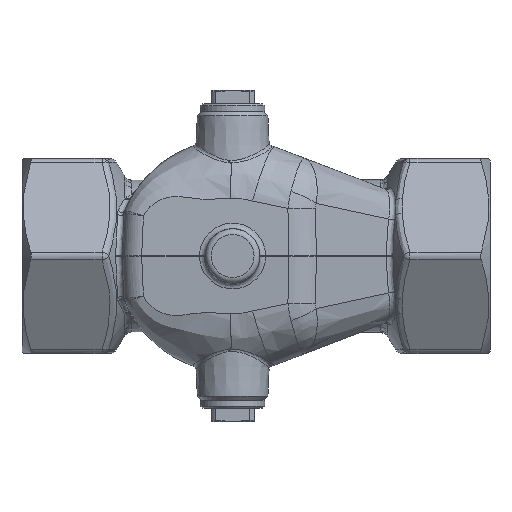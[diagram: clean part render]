
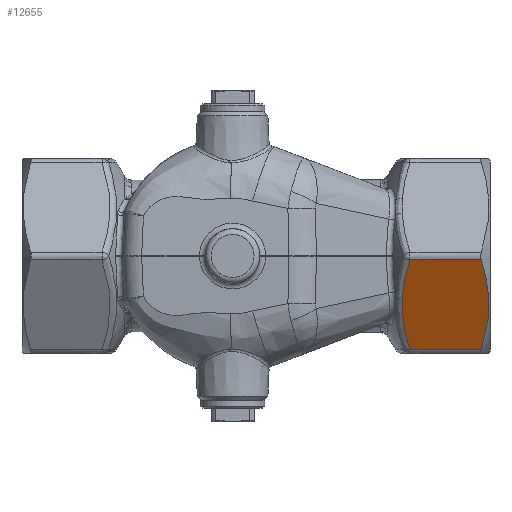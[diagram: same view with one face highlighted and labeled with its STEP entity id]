
A CAD part, front view. The second image highlights one B-rep face of the part: STEP entity #12655.
In plain terms, the highlighted planar face has unit normal (0, -0.866, -0.5).
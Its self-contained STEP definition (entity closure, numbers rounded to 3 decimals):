
#64=(
BOUNDED_CURVE()
B_SPLINE_CURVE(2,(#18304,#18305,#18306),.UNSPECIFIED.,.F.,.F.)
B_SPLINE_CURVE_WITH_KNOTS((3,3),(0.293,3.074),
 .UNSPECIFIED.)
CURVE()
GEOMETRIC_REPRESENTATION_ITEM()
RATIONAL_B_SPLINE_CURVE((1.032,1.168,1.032))
REPRESENTATION_ITEM('')
);
#563=PLANE('',#13478);
#1410=LINE('',#18414,#1992);
#1411=LINE('',#18418,#1993);
#1992=VECTOR('',#14669,18.305);
#1993=VECTOR('',#14674,18.305);
#2587=FACE_OUTER_BOUND('',#3349,.T.);
#3349=EDGE_LOOP('',(#8137,#8138,#8139,#8140,#8141,#8142));
#4182=B_SPLINE_CURVE_WITH_KNOTS('',3,(#18420,#18421,#18422,#18423),
 .UNSPECIFIED.,.F.,.F.,(4,4),(2.694,3.862),
 .UNSPECIFIED.);
#4183=B_SPLINE_CURVE_WITH_KNOTS('',3,(#18425,#18426,#18427,#18428,#18429),
 .UNSPECIFIED.,.F.,.F.,(4,1,4),(0.,0.186,
0.435),.UNSPECIFIED.);
#4184=B_SPLINE_CURVE_WITH_KNOTS('',3,(#18430,#18431,#18432,#18433),
 .UNSPECIFIED.,.F.,.F.,(4,4),(1.167,2.259),
 .UNSPECIFIED.);
#4884=VERTEX_POINT('',#18296);
#4885=VERTEX_POINT('',#18303);
#4900=VERTEX_POINT('',#18413);
#4901=VERTEX_POINT('',#18417);
#4902=VERTEX_POINT('',#18419);
#4903=VERTEX_POINT('',#18424);
#6117=EDGE_CURVE('',#4885,#4884,#64,.T.);
#6142=EDGE_CURVE('',#4885,#4900,#1410,.T.);
#6144=EDGE_CURVE('',#4901,#4884,#1411,.T.);
#6145=EDGE_CURVE('',#4902,#4901,#4182,.T.);
#6146=EDGE_CURVE('',#4903,#4902,#4183,.T.);
#6147=EDGE_CURVE('',#4900,#4903,#4184,.T.);
#8137=ORIENTED_EDGE('',*,*,#6117,.T.);
#8138=ORIENTED_EDGE('',*,*,#6144,.F.);
#8139=ORIENTED_EDGE('',*,*,#6145,.F.);
#8140=ORIENTED_EDGE('',*,*,#6146,.F.);
#8141=ORIENTED_EDGE('',*,*,#6147,.F.);
#8142=ORIENTED_EDGE('',*,*,#6142,.F.);
#12655=ADVANCED_FACE('',(#2587),#563,.T.);
#13478=AXIS2_PLACEMENT_3D('',#18416,#14672,#14673);
#14669=DIRECTION('',(-1.,0.,0.));
#14672=DIRECTION('center_axis',(0.,-0.866,-0.5));
#14673=DIRECTION('ref_axis',(0.,0.5,-0.866));
#14674=DIRECTION('',(1.,0.,0.));
#18296=CARTESIAN_POINT('',(63.781,-28.29,-1.));
#18303=CARTESIAN_POINT('',(63.781,-15.011,-24.));
#18304=CARTESIAN_POINT('Ctrl Pts',(63.781,-15.011,-24.));
#18305=CARTESIAN_POINT('Ctrl Pts',(67.377,-21.651,-12.5));
#18306=CARTESIAN_POINT('Ctrl Pts',(63.781,-28.29,-1.));
#18413=CARTESIAN_POINT('',(45.476,-15.011,-24.));
#18414=CARTESIAN_POINT('',(0.,-15.011,-24.));
#18416=CARTESIAN_POINT('Origin',(0.,-14.434,
-25.));
#18417=CARTESIAN_POINT('',(45.476,-28.29,-1.));
#18418=CARTESIAN_POINT('',(0.,-28.29,-1.));
#18419=CARTESIAN_POINT('',(43.462,-22.546,-10.949));
#18420=CARTESIAN_POINT('Ctrl Pts',(43.462,-22.546,-10.949));
#18421=CARTESIAN_POINT('Ctrl Pts',(43.636,-24.492,-7.579));
#18422=CARTESIAN_POINT('Ctrl Pts',(44.395,-26.418,-4.242));
#18423=CARTESIAN_POINT('Ctrl Pts',(45.476,-28.29,-1.));
#18424=CARTESIAN_POINT('',(43.503,-20.374,-14.71));
#18425=CARTESIAN_POINT('Ctrl Pts',(43.503,-20.374,-14.71));
#18426=CARTESIAN_POINT('Ctrl Pts',(43.464,-20.684,-14.174));
#18427=CARTESIAN_POINT('Ctrl Pts',(43.37,-21.408,-12.92));
#18428=CARTESIAN_POINT('Ctrl Pts',(43.425,-22.133,-11.665));
#18429=CARTESIAN_POINT('Ctrl Pts',(43.462,-22.546,-10.949));
#18430=CARTESIAN_POINT('Ctrl Pts',(45.476,-15.011,-24.));
#18431=CARTESIAN_POINT('Ctrl Pts',(44.466,-16.761,-20.97));
#18432=CARTESIAN_POINT('Ctrl Pts',(43.735,-18.558,-17.857));
#18433=CARTESIAN_POINT('Ctrl Pts',(43.503,-20.374,-14.71));
